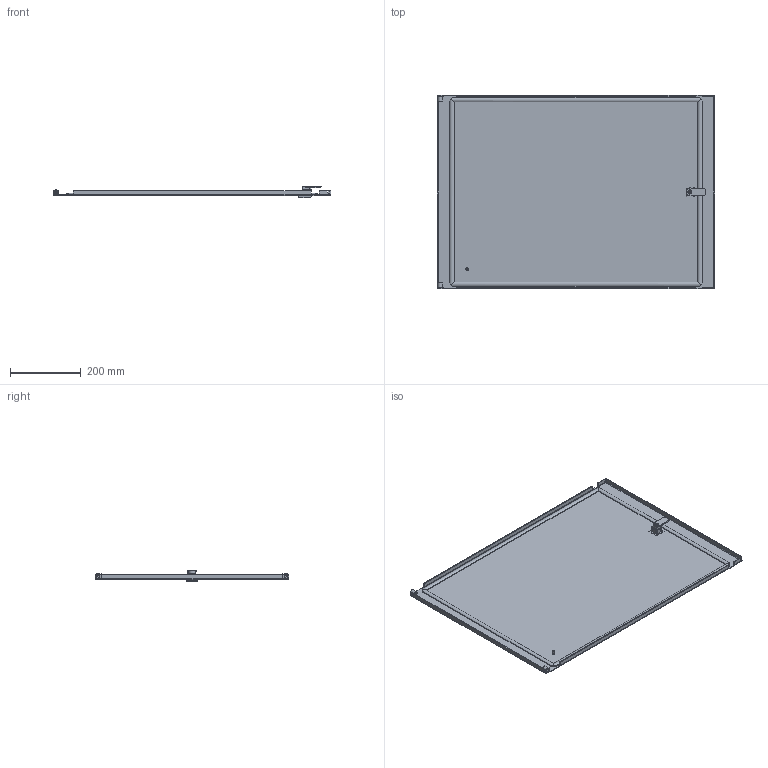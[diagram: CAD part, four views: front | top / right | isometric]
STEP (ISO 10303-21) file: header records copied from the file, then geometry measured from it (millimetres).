
FILE_DESCRIPTION(('STEP AP203'), '1');
FILE_NAME('Äâåðü ñåêöèîííàÿ 550õ800 ìì OptiBox M 419382 ÊÝÀÇ', '', ('UNSPECIFIED'), ('UNSPECIFIED'), 'C3D Converter', 'C3D Toolkit', '');
FILE_SCHEMA(('CONFIG_CONTROL_DESIGN'));
Length unit declared in the file: millimetre
Bounding box: 786.4 x 547 x 32.2 mm (x, y, z)
Volume: 1044821 mm3; surface area: 1004379.2 mm2
Topology: 6 solids, 6 shells, 355 faces, 928 edges, 588 vertices
Faces by surface type: plane 252, cylinder 92, bspline 8, cone 2, torus 1
Full cylindrical faces by diameter (mm): 0.75 x1, 1 x1, 3 x1, 5 x2, 6 x1, 7.5 x1, 9.3 x1, 10 x1, 20 x1
Entity records: 11864 total; most frequent: CARTESIAN_POINT 3095, ORIENTED_EDGE 1830, DIRECTION 1731, EDGE_CURVE 915, LINE 705, VECTOR 705, VERTEX_POINT 588, AXIS2_PLACEMENT_3D 513
